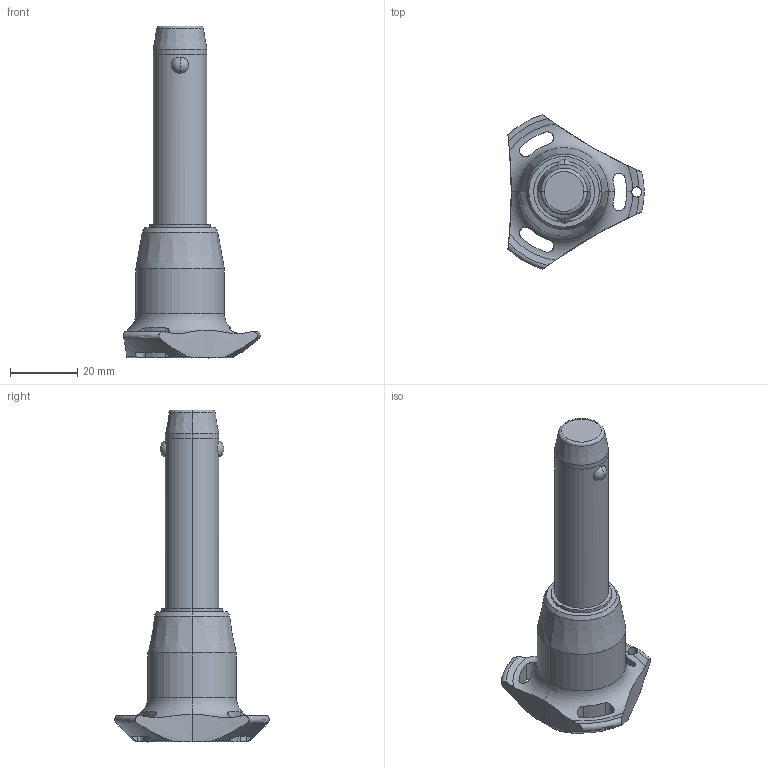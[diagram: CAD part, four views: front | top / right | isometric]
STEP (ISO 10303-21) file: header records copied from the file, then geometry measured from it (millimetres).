
FILE_DESCRIPTION (( 'STEP AP203' ), '1' );
FILE_NAME ('QR1716.M16-045-T.step', '2025-11-13T10:39:18', ( '' ), ( '' ), 'SwSTEP 2.0', 'SolidWorks 2019', '' );
FILE_SCHEMA (( 'CONFIG_CONTROL_DESIGN' ));
Length unit declared in the file: millimetre
Products named in the file (1): QR1716.M16-045-T
Bounding box: 40.5 x 45.88 x 98.7 mm (x, y, z)
Volume: 34143.7 mm3; surface area: 8920.8 mm2
Topology: 1 solids, 1 shells, 68 faces, 184 edges, 117 vertices
Faces by surface type: cylinder 32, cone 14, torus 11, sphere 6, plane 5
Entity records: 2950 total; most frequent: CARTESIAN_POINT 1194, ORIENTED_EDGE 368, DIRECTION 345, EDGE_CURVE 184, AXIS2_PLACEMENT_3D 154, VERTEX_POINT 117, CIRCLE 85, EDGE_LOOP 75
